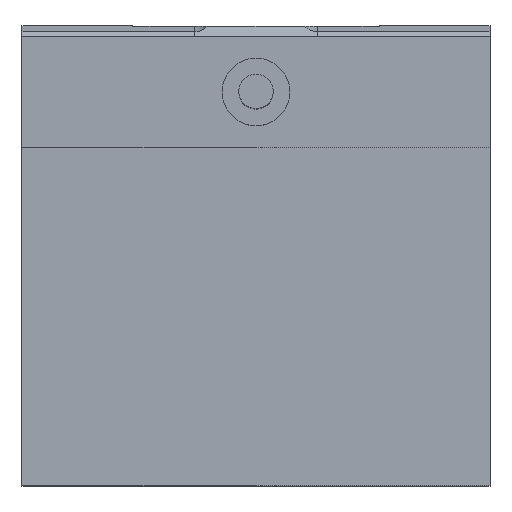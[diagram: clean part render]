
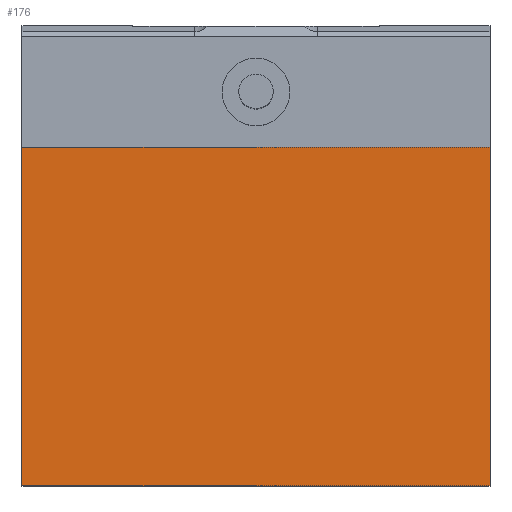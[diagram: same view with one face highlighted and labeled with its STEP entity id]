
A CAD part, top view. The second image highlights one B-rep face of the part: STEP entity #176.
In plain terms, the highlighted planar face has unit normal (0, 0, 1).
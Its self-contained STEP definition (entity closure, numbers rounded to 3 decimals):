
#176 = ADVANCED_FACE( '', ( #440 ), #441, .F. );
#440 = FACE_OUTER_BOUND( '', #725, .T. );
#441 = PLANE( '', #726 );
#725 = EDGE_LOOP( '', ( #1549, #1550, #1551, #1552 ) );
#726 = AXIS2_PLACEMENT_3D( '', #1553, #1554, #1555 );
#1549 = ORIENTED_EDGE( '', *, *, #1919, .T. );
#1550 = ORIENTED_EDGE( '', *, *, #1965, .F. );
#1551 = ORIENTED_EDGE( '', *, *, #1858, .F. );
#1552 = ORIENTED_EDGE( '', *, *, #1966, .T. );
#1553 = CARTESIAN_POINT( '', ( 38., 55., 191. ) );
#1554 = DIRECTION( '', ( 0., 0., -1. ) );
#1555 = DIRECTION( '', ( -1., 0., 0. ) );
#1858 = EDGE_CURVE( '', #2264, #2266, #2267, .T. );
#1919 = EDGE_CURVE( '', #2340, #2385, #2387, .T. );
#1965 = EDGE_CURVE( '', #2266, #2385, #2434, .T. );
#1966 = EDGE_CURVE( '', #2264, #2340, #2435, .T. );
#2264 = VERTEX_POINT( '', #2943 );
#2266 = VERTEX_POINT( '', #2946 );
#2267 = LINE( '', #2947, #2948 );
#2340 = VERTEX_POINT( '', #3051 );
#2385 = VERTEX_POINT( '', #3117 );
#2387 = LINE( '', #3120, #3121 );
#2434 = LINE( '', #3212, #3213 );
#2435 = LINE( '', #3214, #3215 );
#2943 = CARTESIAN_POINT( '', ( 38., 55., 191. ) );
#2946 = CARTESIAN_POINT( '', ( 38., 0., 191. ) );
#2947 = CARTESIAN_POINT( '', ( 38., 55., 191. ) );
#2948 = VECTOR( '', #3478, 1000. );
#3051 = CARTESIAN_POINT( '', ( -38., 55., 191. ) );
#3117 = CARTESIAN_POINT( '', ( -38., 0., 191. ) );
#3120 = CARTESIAN_POINT( '', ( -38., 55., 191. ) );
#3121 = VECTOR( '', #3555, 1000. );
#3212 = CARTESIAN_POINT( '', ( 38., 0., 191. ) );
#3213 = VECTOR( '', #3603, 1000. );
#3214 = CARTESIAN_POINT( '', ( 38., 55., 191. ) );
#3215 = VECTOR( '', #3604, 1000. );
#3478 = DIRECTION( '', ( 0., -1., 0. ) );
#3555 = DIRECTION( '', ( 0., -1., 0. ) );
#3603 = DIRECTION( '', ( -1., 0., 0. ) );
#3604 = DIRECTION( '', ( -1., 0., 0. ) );
